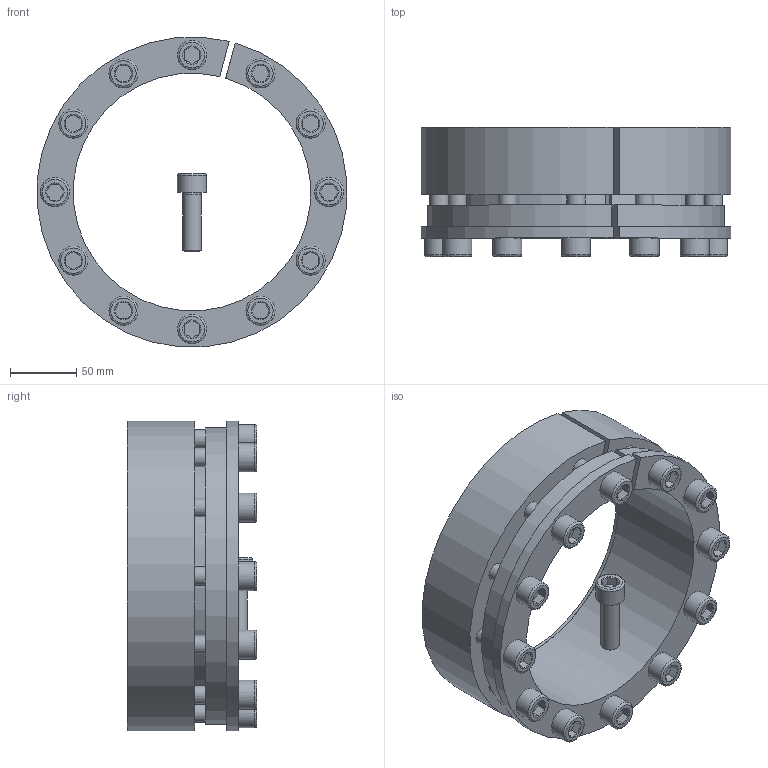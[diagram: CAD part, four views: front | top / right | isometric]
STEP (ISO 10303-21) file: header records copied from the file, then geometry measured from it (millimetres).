
FILE_DESCRIPTION( ( 'Unknown' ), '1' );
FILE_NAME( 'C:/Dokumente und Einstellungen/Sven/Desktop/homepage/cad - homepage/KBS70/KBS 70 - 180 x 235.stp', 'Unknown', ( 'Unknown' ), ( 'Unknown' ), 'XStep 1.0', 'Unknown', ' ' );
FILE_SCHEMA( ( 'automotive_design' ) );
Length unit declared in the file: millimetre
Products named in the file (3): Assem1; KBS 70 - 180 x 235; ISO EN DIN 4762 M14x45
Bounding box: 234.31 x 98 x 234.3 mm (x, y, z)
Volume: 2511086.1 mm3; surface area: 469129.4 mm2
Topology: 15 solids, 15 shells, 401 faces, 819 edges, 500 vertices
Faces by surface type: plane 172, cylinder 108, cone 95, torus 26
Full cylindrical faces by diameter (mm): 12 x13, 14 x74, 22 x13
Entity records: 2254 total; most frequent: CARTESIAN_POINT 361, DIRECTION 340, ORIENTED_EDGE 238, AXIS2_PLACEMENT_3D 154, EDGE_LOOP 146, EDGE_CURVE 119, VERTEX_POINT 95, FACE_OUTER_BOUND 93
